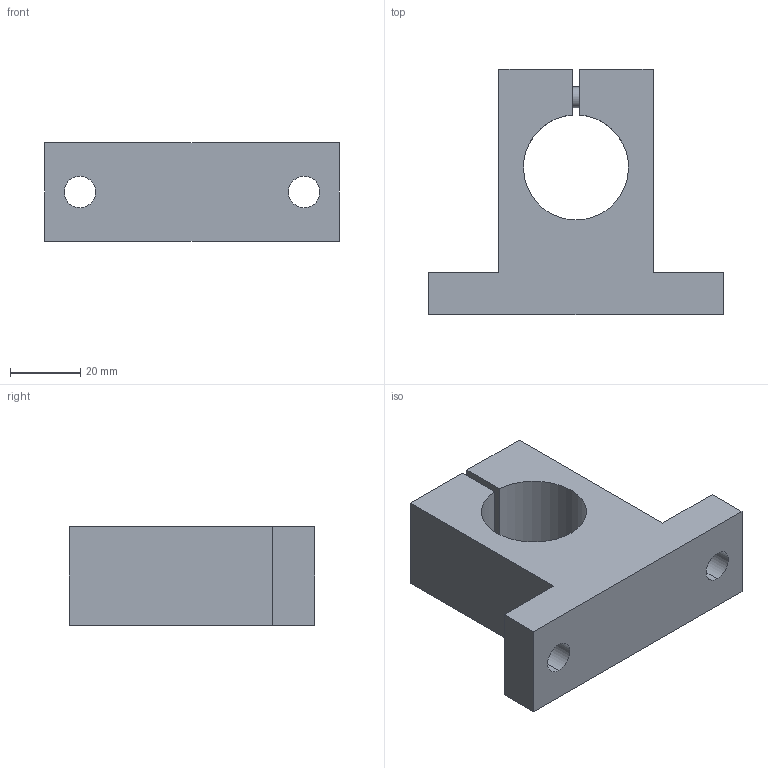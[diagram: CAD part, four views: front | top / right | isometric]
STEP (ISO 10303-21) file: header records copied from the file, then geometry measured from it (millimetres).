
FILE_DESCRIPTION (( 'STEP AP214' ), '1' );
FILE_NAME ('2.7113 Akselin päätykiinnike SK30.STEP', '2024-06-12T10:27:37', ( '' ), ( '' ), 'SwSTEP 2.0', 'SolidWorks 2024', '' );
FILE_SCHEMA (( 'AUTOMOTIVE_DESIGN' ));
Length unit declared in the file: millimetre
Products named in the file (1): 2.7113 Akselin päätykiinnike SK30
Bounding box: 84 x 70 x 28 mm (x, y, z)
Volume: 77591.6 mm3; surface area: 18222.3 mm2
Topology: 1 solids, 1 shells, 36 faces, 91 edges, 60 vertices
Faces by surface type: plane 22, cylinder 12, cone 2
Entity records: 1120 total; most frequent: DIRECTION 191, CARTESIAN_POINT 188, ORIENTED_EDGE 182, EDGE_CURVE 91, VECTOR 65, LINE 65, AXIS2_PLACEMENT_3D 63, VERTEX_POINT 60
